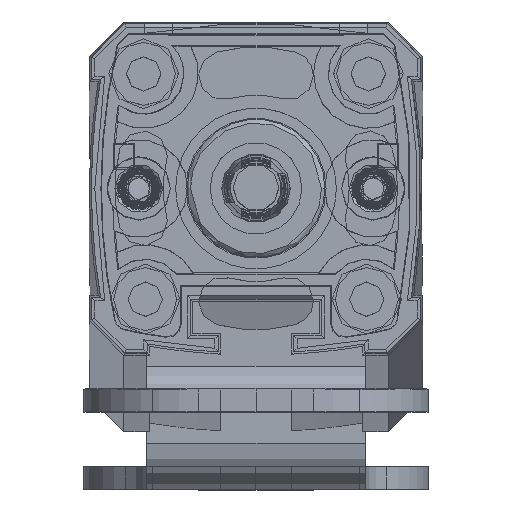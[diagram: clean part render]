
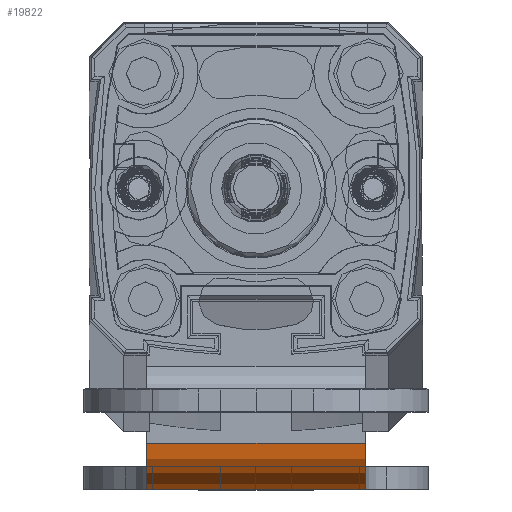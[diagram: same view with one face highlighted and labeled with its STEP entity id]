
A CAD part, top view. The second image highlights one B-rep face of the part: STEP entity #19822.
In plain terms, the highlighted cylindrical face has radius 4 mm (diameter 8 mm), a partial arc.
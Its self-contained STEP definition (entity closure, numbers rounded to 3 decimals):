
#58 = ORIENTED_EDGE ( 'NONE', *, *, #1786, .T. ) ;
#176 = CARTESIAN_POINT ( 'NONE',  ( -9.5, -12.953, -173.392 ) ) ;
#863 = DIRECTION ( 'NONE',  ( 1., 0., 0. ) ) ;
#994 = LINE ( 'NONE', #1148, #8929 ) ;
#1148 = CARTESIAN_POINT ( 'NONE',  ( 0., -9., -170. ) ) ;
#1786 = EDGE_CURVE ( 'NONE', #7011, #26814, #16338, .T. ) ;
#2352 = CARTESIAN_POINT ( 'NONE',  ( 9.5, -12.985, -173.594 ) ) ;
#2853 = CARTESIAN_POINT ( 'NONE',  ( 0., -9., -174. ) ) ;
#3070 = CARTESIAN_POINT ( 'NONE',  ( 9.537, -13., -174. ) ) ;
#4667 = CIRCLE ( 'NONE', #22354, 4. ) ;
#4772 = ORIENTED_EDGE ( 'NONE', *, *, #10811, .T. ) ;
#4971 = CARTESIAN_POINT ( 'NONE',  ( 0., -13., -174. ) ) ;
#5231 = CARTESIAN_POINT ( 'NONE',  ( -9.537, -13., -174. ) ) ;
#5379 = DIRECTION ( 'NONE',  ( -1., 0., 0. ) ) ;
#7011 = VERTEX_POINT ( 'NONE', #23774 ) ;
#7156 = ORIENTED_EDGE ( 'NONE', *, *, #14784, .F. ) ;
#7457 = CIRCLE ( 'NONE', #24660, 4. ) ;
#8910 = DIRECTION ( 'NONE',  ( 1., 0., 0. ) ) ;
#8917 = EDGE_CURVE ( 'NONE', #21871, #24771, #994, .T. ) ;
#8929 = VECTOR ( 'NONE', #26520, 1000. ) ;
#10811 = EDGE_CURVE ( 'NONE', #26814, #12223, #14043, .T. ) ;
#11364 = CARTESIAN_POINT ( 'NONE',  ( 9.5, -9., -170. ) ) ;
#11917 = ORIENTED_EDGE ( 'NONE', *, *, #25340, .F. ) ;
#12223 = VERTEX_POINT ( 'NONE', #3070 ) ;
#12378 = ORIENTED_EDGE ( 'NONE', *, *, #8917, .F. ) ;
#12534 = DIRECTION ( 'NONE',  ( 0., 0., -1. ) ) ;
#13665 = VERTEX_POINT ( 'NONE', #26256 ) ;
#14002 = CARTESIAN_POINT ( 'NONE',  ( -9.5, -12.985, -173.594 ) ) ;
#14026 = CARTESIAN_POINT ( 'NONE',  ( 9.537, -13., -174. ) ) ;
#14043 = LINE ( 'NONE', #4971, #18309 ) ;
#14521 = CYLINDRICAL_SURFACE ( 'NONE', #26437, 4. ) ;
#14784 = EDGE_CURVE ( 'NONE', #7011, #21871, #4667, .T. ) ;
#16011 = DIRECTION ( 'NONE',  ( 1., 0., 0. ) ) ;
#16338 = B_SPLINE_CURVE_WITH_KNOTS ( 'NONE', 3,
 ( #176, #14002, #19208, #18748 ),
 .UNSPECIFIED., .F., .F.,
 ( 4, 4 ),
 ( 0., 0.001 ),
 .UNSPECIFIED. ) ;
#16462 = CARTESIAN_POINT ( 'NONE',  ( 9.5, -9., -174. ) ) ;
#18309 = VECTOR ( 'NONE', #8910, 1000. ) ;
#18748 = CARTESIAN_POINT ( 'NONE',  ( -9.537, -13., -174. ) ) ;
#19208 = CARTESIAN_POINT ( 'NONE',  ( -9.512, -13., -173.797 ) ) ;
#19356 = CARTESIAN_POINT ( 'NONE',  ( -9.5, -9., -174. ) ) ;
#19822 = ADVANCED_FACE ( 'NONE', ( #21606 ), #14521, .T. ) ;
#21086 = CARTESIAN_POINT ( 'NONE',  ( 9.5, -12.953, -173.392 ) ) ;
#21606 = FACE_OUTER_BOUND ( 'NONE', #23118, .T. ) ;
#21614 = ORIENTED_EDGE ( 'NONE', *, *, #23926, .T. ) ;
#21666 = DIRECTION ( 'NONE',  ( 0., 0., -1. ) ) ;
#21871 = VERTEX_POINT ( 'NONE', #25984 ) ;
#22354 = AXIS2_PLACEMENT_3D ( 'NONE', #19356, #5379, #21666 ) ;
#22928 = B_SPLINE_CURVE_WITH_KNOTS ( 'NONE', 3,
 ( #14026, #23408, #2352, #21086 ),
 .UNSPECIFIED., .F., .F.,
 ( 4, 4 ),
 ( 0., 0.001 ),
 .UNSPECIFIED. ) ;
#23118 = EDGE_LOOP ( 'NONE', ( #11917, #12378, #7156, #58, #4772, #21614 ) ) ;
#23408 = CARTESIAN_POINT ( 'NONE',  ( 9.512, -13., -173.797 ) ) ;
#23774 = CARTESIAN_POINT ( 'NONE',  ( -9.5, -12.953, -173.392 ) ) ;
#23926 = EDGE_CURVE ( 'NONE', #12223, #13665, #22928, .T. ) ;
#24660 = AXIS2_PLACEMENT_3D ( 'NONE', #16462, #16011, #30186 ) ;
#24771 = VERTEX_POINT ( 'NONE', #11364 ) ;
#25340 = EDGE_CURVE ( 'NONE', #24771, #13665, #7457, .T. ) ;
#25984 = CARTESIAN_POINT ( 'NONE',  ( -9.5, -9., -170. ) ) ;
#26256 = CARTESIAN_POINT ( 'NONE',  ( 9.5, -12.953, -173.392 ) ) ;
#26437 = AXIS2_PLACEMENT_3D ( 'NONE', #2853, #863, #12534 ) ;
#26520 = DIRECTION ( 'NONE',  ( 1., 0., 0. ) ) ;
#26814 = VERTEX_POINT ( 'NONE', #5231 ) ;
#30186 = DIRECTION ( 'NONE',  ( 0., 0., -1. ) ) ;
